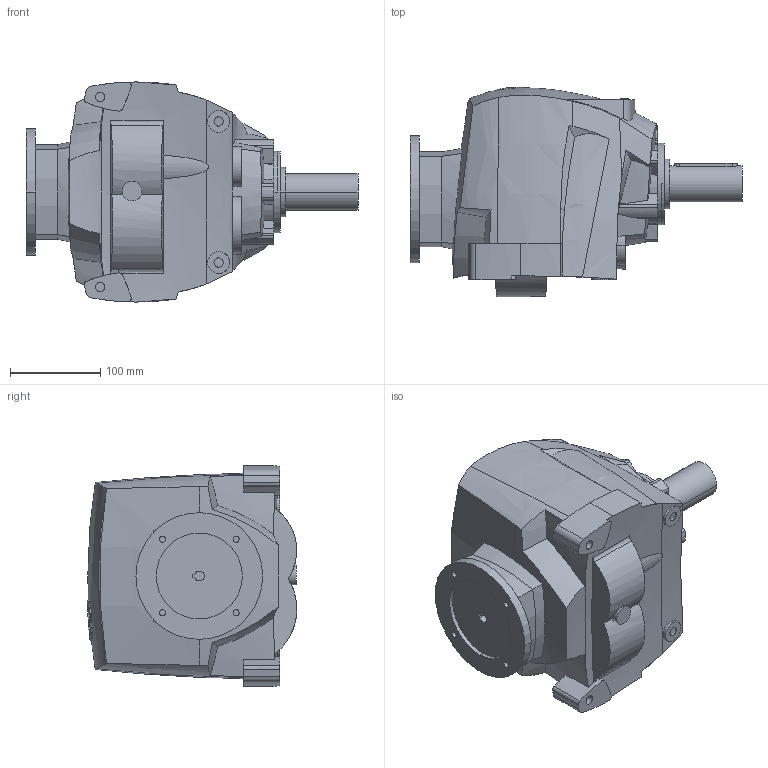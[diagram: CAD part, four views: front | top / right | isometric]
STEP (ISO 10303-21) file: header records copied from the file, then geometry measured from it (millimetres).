
FILE_DESCRIPTION((''),'2;1');
FILE_NAME('R35_UNV_PAM63_D2','2013-11-05T',('Luca'),(''),'PRO/ENGINEER BY PARAMETRIC TECHNOLOGY CORPORATION, 2008230','PRO/ENGINEER BY PARAMETRIC TECHNOLOGY CORPORATION, 2008230','');
FILE_SCHEMA(('CONFIG_CONTROL_DESIGN'));
Length unit declared in the file: millimetre
Products named in the file (1): R35_UNV_PAM63_D2
Bounding box: 367 x 231.73 x 243.29 mm (x, y, z)
Volume: 8719816.1 mm3; surface area: 300525.5 mm2
Topology: 1 solids, 3 shells, 394 faces, 1086 edges, 734 vertices
Faces by surface type: cylinder 130, plane 93, extrusion 92, bspline 58, cone 12, torus 9
Entity records: 20569 total; most frequent: CARTESIAN_POINT 11570, ORIENTED_EDGE 2166, DIRECTION 1297, EDGE_CURVE 1083, VERTEX_POINT 734, B_SPLINE_CURVE_WITH_KNOTS 639, VECTOR 447, EDGE_LOOP 431
